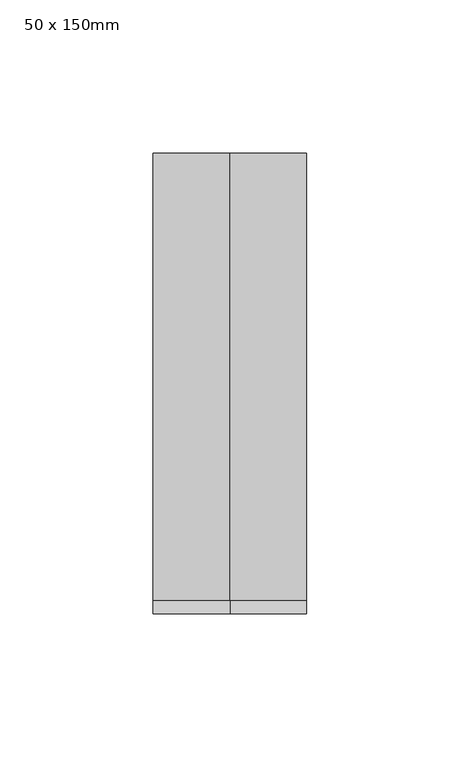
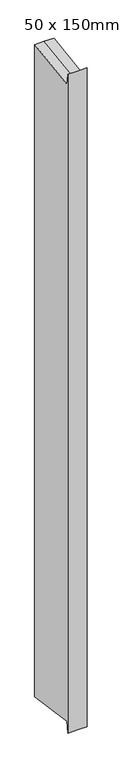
"""IFC4 building model written with IfcOpenShell, lengths in millimetres: member geometry, 矩形竖梃 : 50 x 150mm."""

from ifc_helpers import new_model, si_unit, origin, place, context, project, spatial, faceted_brep, source, transform, mapped, element, save


def member_50_x_150mm_9c1dd4a6(model_context):
    return source(origin(), model_context, "Body", "Brep", [
        faceted_brep([(-25.0, 75.0, 10.5744657), (0.0, 75.0, 10.5744657), (25.0, 75.0, 10.5744657), (25.0, 75.0, -1790.5744657), (0.0, 75.0, -1790.5744657), (-25.0, 75.0, -1790.5744657), (-25.0, -75.0, 19.6109918), (-25.0, -70.6553215, -10.4658363), (-25.0, -70.6553215, -1769.5341637), (-25.0, -75.0, -1799.6109918), (25.0, -75.0, 19.6109918), (0.0, -75.0, 19.6109918), (0.0, -75.0, -1799.6109918), (25.0, -75.0, -1799.6109918), (25.0, -70.6553215, -10.4658363), (25.0, -70.6553215, -1769.5341637), (0.0, -70.6553215, -10.4658363), (0.0, -70.6553215, -1769.5341637)], [[[0, 1, 2, 3, 4, 5]], [[6, 7, 0, 5, 8, 9]], [[10, 11, 6, 9, 12, 13]], [[2, 14, 10, 13, 15, 3]], [[2, 1, 16, 14]], [[1, 0, 7, 16]], [[7, 6, 11, 16]], [[11, 10, 14, 16]], [[3, 15, 17, 4]], [[15, 13, 12, 17]], [[12, 9, 8, 17]], [[8, 5, 4, 17]]]),
    ])


if __name__ == "__main__":
    model = new_model("IFC4")
    model_context = context("Model", 3, world=origin())
    ifc_project = project(units=[si_unit("LENGTHUNIT", "METRE", prefix="MILLI")], contexts=[model_context])
    site = spatial("IfcSite", under=ifc_project)
    building = spatial("IfcBuilding", under=site)
    placement = place(None, origin())
    member_50_x_150mm_shape = member_50_x_150mm_9c1dd4a6(model_context)
    element("IfcMember", 1, ObjectType="矩形竖梃 : 50 x 150mm", at=placement, inside=building, context=model_context, shape_type="MappedRepresentation", body=[
        mapped(member_50_x_150mm_shape, transform((0.0, 0.0, 0.0), x_axis=(1.0, 0.0, 0.0), y_axis=(0.0, 1.0, 0.0), z_axis=(0.0, 0.0, 1.0))),
    ])
    save(model, "model.ifc")
